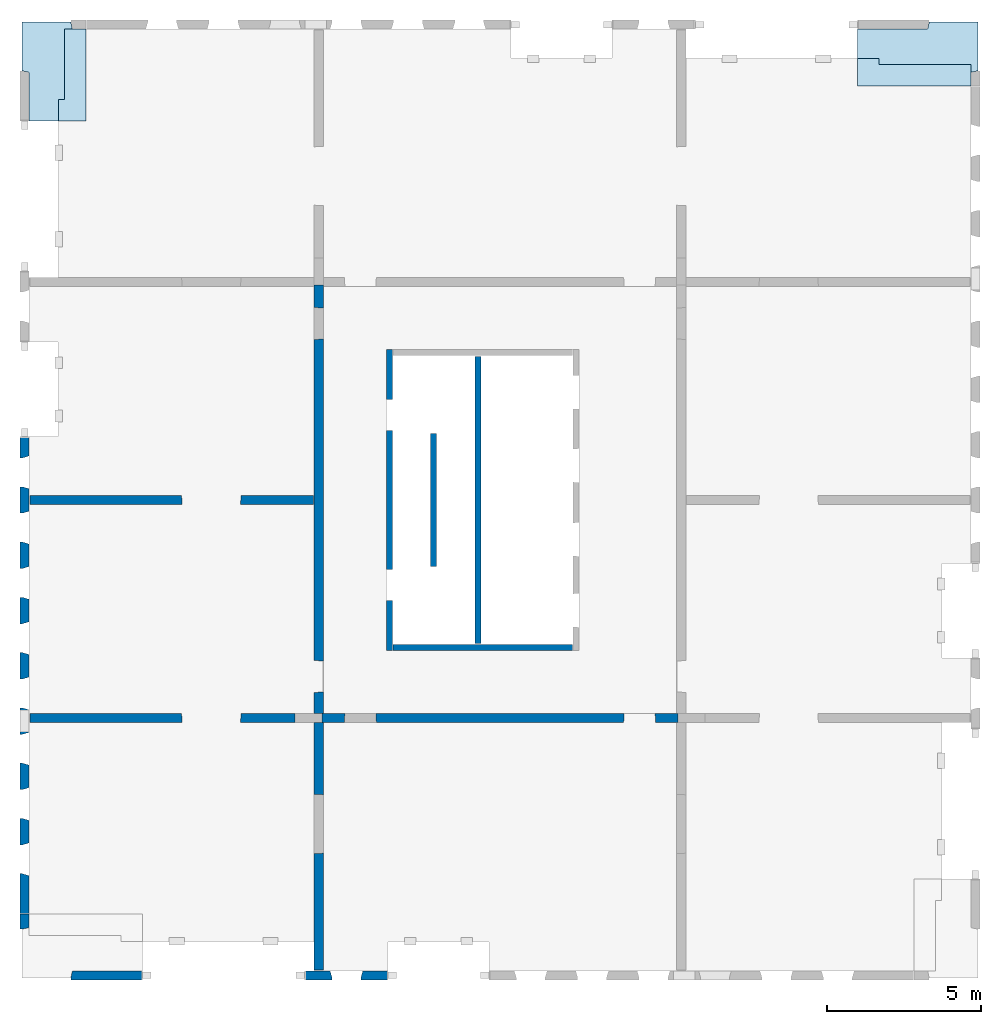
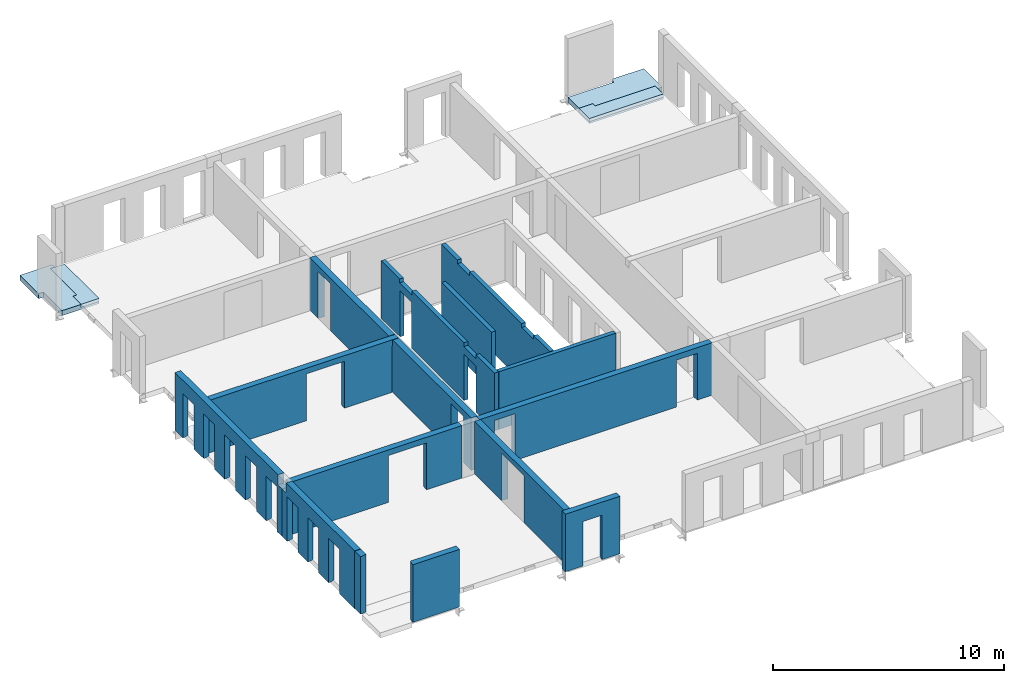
# One storey, part 2 of 4: 14 walls, 4 slabs, 34 openings.
"""IFC2X3 building model written with IfcOpenShell, lengths in millimetres."""

from ifc_helpers import new_model, entity, si_unit, converted_unit, derived_unit, direction, frame, frame_2d, origin, place, context, subcontext, project, spatial, polyline, rectangle, outline, extrude, faceted_brep, material, layer, layer_set, layer_usage, type_object, element, save


model = new_model("IFC2X3")

# Units and contexts
model_context = context("Model", 3, precision=0.01, world=origin(), true_north=direction((6.12303176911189e-17, 1.0)))
body_context = subcontext(model_context, "Body", "Model", "MODEL_VIEW")
ifc_project = project(units=[si_unit("LENGTHUNIT", "METRE", prefix="MILLI"), si_unit("AREAUNIT", "SQUARE_METRE"), si_unit("VOLUMEUNIT", "CUBIC_METRE"), converted_unit("PLANEANGLEUNIT", "DEGREE", entity("IfcRatioMeasure", 0.0174532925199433), si_unit("PLANEANGLEUNIT", "RADIAN"), dimensions=[0, 0, 0, 0, 0, 0, 0]), si_unit("MASSUNIT", "GRAM", prefix="KILO"), derived_unit("MASSDENSITYUNIT", [(si_unit("MASSUNIT", "GRAM", prefix="KILO"), 1), (si_unit("LENGTHUNIT", "METRE"), -3)]), si_unit("TIMEUNIT", "SECOND"), si_unit("FREQUENCYUNIT", "HERTZ"), si_unit("THERMODYNAMICTEMPERATUREUNIT", "DEGREE_CELSIUS"), derived_unit("THERMALTRANSMITTANCEUNIT", [(si_unit("MASSUNIT", "GRAM", prefix="KILO"), 1), (si_unit("THERMODYNAMICTEMPERATUREUNIT", "KELVIN"), -1), (si_unit("TIMEUNIT", "SECOND"), -3)]), derived_unit("VOLUMETRICFLOWRATEUNIT", [(si_unit("LENGTHUNIT", "METRE"), 3), (si_unit("TIMEUNIT", "SECOND"), -1)]), si_unit("ELECTRICCURRENTUNIT", "AMPERE"), si_unit("ELECTRICVOLTAGEUNIT", "VOLT"), si_unit("POWERUNIT", "WATT"), si_unit("FORCEUNIT", "NEWTON", prefix="KILO"), si_unit("ILLUMINANCEUNIT", "LUX"), si_unit("LUMINOUSFLUXUNIT", "LUMEN"), si_unit("LUMINOUSINTENSITYUNIT", "CANDELA"), derived_unit("USERDEFINED", [(si_unit("MASSUNIT", "GRAM", prefix="KILO"), -1), (si_unit("LENGTHUNIT", "METRE"), -2), (si_unit("TIMEUNIT", "SECOND"), 3), (si_unit("LUMINOUSFLUXUNIT", "LUMEN"), 1)]), derived_unit("LINEARVELOCITYUNIT", [(si_unit("LENGTHUNIT", "METRE"), 1), (si_unit("TIMEUNIT", "SECOND"), -1)]), si_unit("PRESSUREUNIT", "PASCAL"), derived_unit("USERDEFINED", [(si_unit("LENGTHUNIT", "METRE"), -2), (si_unit("MASSUNIT", "GRAM", prefix="KILO"), 1), (si_unit("TIMEUNIT", "SECOND"), -2)])], contexts=[model_context])

# Site, building, storey
site_placement = place(None, origin())
site = spatial("IfcSite", under=ifc_project, at=site_placement, Name="Default", CompositionType="ELEMENT")
building_placement = place(site_placement, origin())
building = spatial("IfcBuilding", under=site, at=building_placement, Name="niet gebruiken", CompositionType="ELEMENT")
storey_placement = place(building_placement, frame((0.0, 0.0, 146520.0)))
storey = spatial("IfcBuildingStorey", under=building, at=storey_placement, Name="47 zevenenveertigste verdieping", CompositionType="ELEMENT", Elevation=146520.0)

# Slabs
ifc_material_1 = material(Name="NLRS_f2_beton prefab")
ifc_layer_1 = layer(ifc_material_1, 270.0)
ifc_layer_set_1 = layer_set([ifc_layer_1], Name="Floor:NLRS_23.22_FL_beton prefab d=270 3D element_gen")
ifc_layer_usage_1 = layer_usage(ifc_layer_set_1, "AXIS3", "POSITIVE", 0.0)
slab_1_placement = place(storey_placement, origin())
element("IfcSlab", 1, at=slab_1_placement, inside=storey, material=ifc_layer_usage_1, Name="Floor:NLRS_23.22_FL_beton prefab d=270 3D element_gen", ObjectType="Floor:NLRS_23.22_FL_beton prefab d=270 3D element_gen", PredefinedType="LANDING", context=body_context, shape_type="SweptSolid", body=[
    extrude(outline(polyline([(-322.675940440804, -982.471394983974), (1267.47139498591, -982.471394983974), (1267.47139498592, 607.675940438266), (1034.47139498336, 655.152429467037), (1034.47139498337, 1100.5286050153), (-1955.52860501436, 1100.52860501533), (-1955.52860501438, -749.471394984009), (-370.152429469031, -749.471394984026), (-322.675940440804, -982.471394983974)])), frame((127169.471394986, 31795.5286050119, -90.0), z_axis=(0.0, 0.0, -1.0), x_axis=(0.0, 1.0, 0.0)), (0.0, 0.0, 1.0), 270.000000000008),
])
ifc_material_2 = material(Name="NLRS_f2_beton ihwg")
ifc_layer_2 = layer(ifc_material_2, 170.0)
ifc_layer_set_2 = layer_set([ifc_layer_2], Name="Floor:NLRS_23.21_FL_beton ihwg d=170_gen")
ifc_layer_usage_2 = layer_usage(ifc_layer_set_2, "AXIS3", "POSITIVE", 0.0)
slab_2_placement = place(storey_placement, origin())
element("IfcSlab", 2, at=slab_2_placement, inside=storey, material=ifc_layer_usage_2, Name="Floor:NLRS_23.21_FL_beton ihwg d=170_gen", ObjectType="Floor:NLRS_23.21_FL_beton ihwg d=170_gen", PredefinedType="FLOOR", context=body_context, shape_type="SweptSolid", body=[
    extrude(outline(polyline([(-1230.0, -366.666666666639), (-530.0, -366.666666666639), (-530.0, -166.66666666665), (1760.0, -166.666666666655), (1760.0, 533.333333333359), (-1230.0, 533.333333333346), (-1230.0, -366.666666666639)])), frame((127736.666666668, 31070.0, -90.0), z_axis=(0.0, 0.0, -1.0), x_axis=(0.0, 1.0, 0.0)), (0.0, 0.0, 1.0), 169.999999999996),
])
ifc_layer_usage_3 = layer_usage(ifc_layer_set_1, "AXIS3", "POSITIVE", 0.0)
slab_3_placement = place(storey_placement, origin())
element("IfcSlab", 3, at=slab_3_placement, inside=storey, material=ifc_layer_usage_3, Name="Floor:NLRS_23.22_FL_beton prefab d=270 3D element_gen", ObjectType="Floor:NLRS_23.22_FL_beton prefab d=270 3D element_gen", PredefinedType="LANDING", context=body_context, shape_type="SweptSolid", body=[
    extrude(outline(polyline([(-1100.52860501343, -2480.52860501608), (749.471394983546, -2480.52860501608), (749.471394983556, -195.152429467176), (982.471394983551, -147.675940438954), (982.471394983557, 1442.47139498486), (-607.675940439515, 1442.47139498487), (-655.152429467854, 1209.47139498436), (-1100.52860501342, 1209.47139498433), (-1100.52860501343, -2480.52860501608)])), frame((155870.528605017, 32080.5286050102, -90.0), z_axis=(0.0, 0.0, -1.0), x_axis=(0.0, 1.0, 0.0)), (0.0, 0.0, 1.0), 270.000000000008),
])
ifc_layer_usage_4 = layer_usage(ifc_layer_set_2, "AXIS3", "POSITIVE", 0.0)
slab_4_placement = place(storey_placement, origin())
element("IfcSlab", 4, at=slab_4_placement, inside=storey, material=ifc_layer_usage_4, Name="Floor:NLRS_23.21_FL_beton ihwg d=170_gen", ObjectType="Floor:NLRS_23.21_FL_beton ihwg d=170_gen", PredefinedType="FLOOR", context=body_context, shape_type="SweptSolid", body=[
    extrude(outline(polyline([(-533.333333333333, -1463.33333333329), (366.666666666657, -1463.33333333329), (366.666666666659, -763.333333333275), (166.66666666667, -763.333333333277), (166.666666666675, 2226.66666666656), (-533.333333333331, 2226.66666666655), (-533.333333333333, -1463.33333333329)])), frame((154853.333333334, 31513.3333333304, -90.0), z_axis=(0.0, 0.0, -1.0), x_axis=(0.0, 1.0, 0.0)), (0.0, 0.0, 1.0), 169.999999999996),
])

# Wall, openings
ifc_layer_3 = layer(ifc_material_1, 200.0)
ifc_layer_set_3 = layer_set([ifc_layer_3], Name="Basic Wall:NLRS_22.21_WA_beton prefab d=200_gen")
ifc_layer_usage_5 = layer_usage(ifc_layer_set_3, "AXIS2", "NEGATIVE", 100.0)
wall_type_1 = type_object("IfcWallType", Name="Basic Wall:NLRS_22.21_WA_beton prefab d=200_gen", PredefinedType="STANDARD", material=ifc_layer_set_3)
wall_1_placement = place(storey_placement, frame((138150.0, 22400.0, -50.0), z_axis=(0.0, 0.0, 1.0), x_axis=(0.0, -1.0, 0.0)))
wall_1 = element("IfcWallStandardCase", 5, at=wall_1_placement, inside=storey, type_object=wall_type_1, material=ifc_layer_usage_5, Name="Basic Wall:NLRS_22.21_WA_beton prefab d=200_gen", ObjectType="Basic Wall:NLRS_22.21_WA_beton prefab d=200_gen", context=body_context, shape_type="SweptSolid", body=[
    extrude(rectangle(XDim=9800.0, YDim=199.999999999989, at=frame_2d((4900.0, 3.76587649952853e-13), x_axis=(-1.0, 0.0))), origin(), (0.0, 0.0, 1.0), 3040.0),
])
opening_1_placement = place(wall_1_placement, origin())
element("IfcOpeningElement", 6, at=opening_1_placement, cuts=wall_1, Name="Basic Wall:NLRS_22.21_WA_beton prefab d=200_gen", ObjectType="Opening", context=body_context, shape_type="SweptSolid", body=[
    extrude(rectangle(XDim=200.000000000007, YDim=1044.0, at=frame_2d((-8.66862137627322e-12, 0.0), x_axis=(1.0, 0.0))), frame((7672.0, -100.0, 2940.0), z_axis=(0.0, 1.0, 0.0), x_axis=(0.0, 0.0, -1.0)), (0.0, 0.0, 1.0), 199.999999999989),
])
opening_2_placement = place(wall_1_placement, origin())
element("IfcOpeningElement", 7, at=opening_2_placement, cuts=wall_1, Name="Basic Wall:NLRS_22.21_WA_beton prefab d=200_gen", ObjectType="Opening", context=body_context, shape_type="SweptSolid", body=[
    extrude(rectangle(XDim=200.000000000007, YDim=1044.0, at=frame_2d((-8.66862137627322e-12, 2.1600499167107e-12), x_axis=(1.0, 0.0))), frame((2128.0, -100.0, 2940.0), z_axis=(0.0, 1.0, 0.0), x_axis=(0.0, 0.0, -1.0)), (0.0, 0.0, 1.0), 199.999999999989),
])
opening_3_placement = place(wall_1_placement, origin())
element("IfcOpeningElement", 8, at=opening_3_placement, cuts=wall_1, Name="Basic Wall:NLRS_22.21_WA_beton prefab d=200_gen", ObjectType="Opening", context=body_context, shape_type="SweptSolid", body=[
    extrude(rectangle(XDim=2435.0, YDim=1015.99999999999, at=frame_2d((0.0, 1.10844666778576e-12), x_axis=(1.0, 0.0))), frame((7672.0, -100.0, 1217.50000000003), z_axis=(0.0, 1.0, 0.0), x_axis=(0.0, 0.0, -1.0)), (0.0, 0.0, 1.0), 199.999999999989),
])
opening_4_placement = place(wall_1_placement, origin())
element("IfcOpeningElement", 9, at=opening_4_placement, cuts=wall_1, Name="Basic Wall:NLRS_22.21_WA_beton prefab d=200_gen", ObjectType="Opening", context=body_context, shape_type="SweptSolid", body=[
    extrude(rectangle(XDim=2435.0, YDim=1015.99999999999, at=frame_2d((0.0, -2.18847162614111e-12), x_axis=(1.0, 0.0))), frame((2128.0, -100.0, 1217.50000000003), z_axis=(0.0, 1.0, 0.0), x_axis=(0.0, 0.0, -1.0)), (0.0, 0.0, 1.0), 199.999999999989),
])

ifc_layer_usage_6 = layer_usage(ifc_layer_set_3, "AXIS2", "NEGATIVE", 100.0)
wall_2_placement = place(storey_placement, frame((141030.0, 22180.0, -50.0), z_axis=(0.0, 0.0, 1.0), x_axis=(0.0, -1.0, 0.0)))
wall_2 = element("IfcWallStandardCase", 10, at=wall_2_placement, inside=storey, type_object=wall_type_1, material=ifc_layer_usage_6, Name="Basic Wall:NLRS_22.21_WA_beton prefab d=200_gen", ObjectType="Basic Wall:NLRS_22.21_WA_beton prefab d=200_gen", context=body_context, shape_type="SweptSolid", body=[
    extrude(rectangle(XDim=9360.0, YDim=199.999999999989, at=frame_2d((4680.0, -2.8421709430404e-14), x_axis=(-1.0, 0.0))), origin(), (0.0, 0.0, 1.0), 3040.0),
])
opening_5_placement = place(wall_2_placement, origin())
element("IfcOpeningElement", 11, at=opening_5_placement, cuts=wall_2, Name="Basic Wall:NLRS_22.21_WA_beton prefab d=200_gen", ObjectType="Opening", context=body_context, shape_type="SweptSolid", body=[
    extrude(rectangle(XDim=70.0000000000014, YDim=1044.00000000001, at=frame_2d((-8.66506866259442e-12, 0.0), x_axis=(1.0, 0.0))), frame((7452.0, -100.0, 35.0), z_axis=(0.0, 1.0, 0.0), x_axis=(0.0, 0.0, -1.0)), (0.0, 0.0, 1.0), 199.999999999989),
])
opening_6_placement = place(wall_2_placement, origin())
element("IfcOpeningElement", 12, at=opening_6_placement, cuts=wall_2, Name="Basic Wall:NLRS_22.21_WA_beton prefab d=200_gen", ObjectType="Opening", context=body_context, shape_type="SweptSolid", body=[
    extrude(rectangle(XDim=70.0000000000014, YDim=1044.00000000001, at=frame_2d((-8.66506866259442e-12, 0.0), x_axis=(1.0, 0.0))), frame((1908.0, -100.0, 35.0), z_axis=(0.0, 1.0, 0.0), x_axis=(0.0, 0.0, -1.0)), (0.0, 0.0, 1.0), 199.999999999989),
])
opening_7_placement = place(wall_2_placement, origin())
element("IfcOpeningElement", 13, at=opening_7_placement, cuts=wall_2, Name="Basic Wall:NLRS_22.21_WA_beton prefab d=200_gen", ObjectType="Opening", context=body_context, shape_type="SweptSolid", body=[
    extrude(rectangle(XDim=200.000000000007, YDim=1044.00000000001, at=frame_2d((-8.66862137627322e-12, 0.0), x_axis=(1.0, 0.0))), frame((1908.0, -100.0, 2940.0), z_axis=(0.0, 1.0, 0.0), x_axis=(0.0, 0.0, -1.0)), (0.0, 0.0, 1.0), 199.999999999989),
])
opening_8_placement = place(wall_2_placement, origin())
element("IfcOpeningElement", 14, at=opening_8_placement, cuts=wall_2, Name="Basic Wall:NLRS_22.21_WA_beton prefab d=200_gen", ObjectType="Opening", context=body_context, shape_type="SweptSolid", body=[
    extrude(rectangle(XDim=200.000000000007, YDim=1044.00000000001, at=frame_2d((-8.66862137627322e-12, 0.0), x_axis=(1.0, 0.0))), frame((7452.0, -100.0, 2940.0), z_axis=(0.0, 1.0, 0.0), x_axis=(0.0, 0.0, -1.0)), (0.0, 0.0, 1.0), 199.999999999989),
])
opening_9_placement = place(wall_2_placement, origin())
element("IfcOpeningElement", 15, at=opening_9_placement, cuts=wall_2, Name="Basic Wall:NLRS_22.21_WA_beton prefab d=200_gen", ObjectType="Recess", context=body_context, shape_type="SweptSolid", body=[
    extrude(rectangle(XDim=399.999999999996, YDim=280.000000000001, at=frame_2d((-2.1600499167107e-12, -8.66862137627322e-12), x_axis=(0.0, 1.0))), frame((770.0, -60.0, 438.0), z_axis=(0.0, 1.0, 0.0), x_axis=(1.0, 0.0, 0.0)), (0.0, 0.0, 1.0), 159.999999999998),
])
opening_10_placement = place(wall_2_placement, origin())
element("IfcOpeningElement", 16, at=opening_10_placement, cuts=wall_2, Name="Basic Wall:NLRS_22.21_WA_beton prefab d=200_gen", ObjectType="Recess", context=body_context, shape_type="SweptSolid", body=[
    extrude(rectangle(XDim=399.999999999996, YDim=280.000000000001, at=frame_2d((-2.1600499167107e-12, -8.66862137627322e-12), x_axis=(0.0, 1.0))), frame((1570.0, -60.0, 438.0), z_axis=(0.0, 1.0, 0.0), x_axis=(1.0, 0.0, 0.0)), (0.0, 0.0, 1.0), 159.999999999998),
])
opening_11_placement = place(wall_2_placement, origin())
element("IfcOpeningElement", 17, at=opening_11_placement, cuts=wall_2, Name="Basic Wall:NLRS_22.21_WA_beton prefab d=200_gen", ObjectType="Recess", context=body_context, shape_type="SweptSolid", body=[
    extrude(rectangle(XDim=399.999999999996, YDim=279.999999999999, at=frame_2d((-1.08002495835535e-12, -8.66862137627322e-12), x_axis=(0.0, 1.0))), frame((3160.0, -60.0, 438.0), z_axis=(0.0, 1.0, 0.0), x_axis=(1.0, 0.0, 0.0)), (0.0, 0.0, 1.0), 159.999999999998),
])
opening_12_placement = place(wall_2_placement, origin())
element("IfcOpeningElement", 18, at=opening_12_placement, cuts=wall_2, Name="Basic Wall:NLRS_22.21_WA_beton prefab d=200_gen", ObjectType="Recess", context=body_context, shape_type="SweptSolid", body=[
    extrude(rectangle(XDim=399.999999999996, YDim=279.999999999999, at=frame_2d((1.08002495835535e-12, -8.66862137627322e-12), x_axis=(0.0, 1.0))), frame((3960.0, -60.0, 438.0), z_axis=(0.0, 1.0, 0.0), x_axis=(1.0, 0.0, 0.0)), (0.0, 0.0, 1.0), 159.999999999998),
])

# Walls
ifc_layer_usage_7 = layer_usage(ifc_layer_set_3, "AXIS2", "NEGATIVE", 100.0)
wall_3_placement = place(storey_placement, frame((139590.0, 19660.0, -50.0), z_axis=(0.0, 0.0, 1.0), x_axis=(0.0, -1.0, 0.0)))
element("IfcWallStandardCase", 19, at=wall_3_placement, inside=storey, type_object=wall_type_1, material=ifc_layer_usage_7, Name="Basic Wall:NLRS_22.21_WA_beton prefab d=200_gen", ObjectType="Basic Wall:NLRS_22.21_WA_beton prefab d=200_gen", context=body_context, shape_type="SweptSolid", body=[
    extrude(rectangle(XDim=4320.00000000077, YDim=199.999999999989, at=frame_2d((2160.00000000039, 0.0), x_axis=(-1.0, 0.0))), origin(), (0.0, 0.0, 1.0), 3040.0),
])
ifc_layer_usage_8 = layer_usage(ifc_layer_set_3, "AXIS2", "NEGATIVE", 100.0)
wall_4_placement = place(storey_placement, frame((138270.0, 12700.0, -50.0)))
element("IfcWallStandardCase", 20, at=wall_4_placement, inside=storey, type_object=wall_type_1, material=ifc_layer_usage_8, Name="Basic Wall:NLRS_22.21_WA_beton prefab d=200_gen", ObjectType="Basic Wall:NLRS_22.21_WA_beton prefab d=200_gen", context=body_context, shape_type="SweptSolid", body=[
    extrude(rectangle(XDim=5839.99999999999, YDim=199.999999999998, at=frame_2d((2919.99999999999, -6.82121026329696e-13), x_axis=(-1.0, 0.0))), origin(), (0.0, 0.0, 1.0), 3040.0),
])

# Wall, opening
ifc_layer_4 = layer(ifc_material_1, 300.0)
ifc_layer_set_4 = layer_set([ifc_layer_4], Name="Basic Wall:NLRS_22.21_WA_beton prefab d=300_gen")
ifc_layer_usage_9 = layer_usage(ifc_layer_set_4, "AXIS2", "NEGATIVE", 150.0)
wall_type_2 = type_object("IfcWallType", Name="Basic Wall:NLRS_22.21_WA_beton prefab d=300_gen", PredefinedType="STANDARD", material=ifc_layer_set_4)
wall_5_placement = place(storey_placement, frame((135850.0, 10250.0, -70.0), z_axis=(0.0, 0.0, 1.0), x_axis=(0.0, -1.0, 0.0)))
wall_5 = element("IfcWallStandardCase", 21, at=wall_5_placement, inside=storey, type_object=wall_type_2, material=ifc_layer_usage_9, Name="Basic Wall:NLRS_22.21_WA_beton prefab d=300_gen", ObjectType="Basic Wall:NLRS_22.21_WA_beton prefab d=300_gen", context=body_context, shape_type="SweptSolid", body=[
    extrude(rectangle(XDim=8059.99999999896, YDim=300.000000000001, at=frame_2d((4029.99999999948, 1.22213350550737e-12), x_axis=(-1.0, 0.0))), origin(), (0.0, 0.0, 1.0), 2769.99999999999),
])
opening_13_placement = place(wall_5_placement, frame((4268.0, -150.0, 0.0)))
element("IfcOpeningElement", 22, at=opening_13_placement, cuts=wall_5, Name="Basic Wall:NLRS_22.21_WA_beton prefab d=300_gen", ObjectType="Opening", context=body_context, shape_type="Brep", body=[
    faceted_brep([(-18.0, 300.0, 2470.0), (-18.0, 300.0, 0.0), (-1918.0, 300.0, 0.0), (-1918.0, 300.0, 2470.0), (0.0, 0.0, 2488.0), (-1936.0, 0.0, 2488.0), (-1936.0, 0.0, 0.0), (0.0, 0.0, 0.0)], [[[0, 1, 2, 3]], [[4, 5, 6, 7]], [[4, 0, 3, 5]], [[5, 3, 2, 6]], [[6, 2, 1, 7]], [[7, 1, 0, 4]]]),
])

# Wall, openings
ifc_layer_usage_10 = layer_usage(ifc_layer_set_4, "AXIS2", "NEGATIVE", 150.0)
wall_6_placement = place(storey_placement, frame((135950.003540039, 10400.0, -70.0)))
wall_6 = element("IfcWallStandardCase", 23, at=wall_6_placement, inside=storey, type_object=wall_type_2, material=ifc_layer_usage_10, Name="Basic Wall:NLRS_22.21_WA_beton prefab d=300_gen", ObjectType="Basic Wall:NLRS_22.21_WA_beton prefab d=300_gen", context=body_context, shape_type="SweptSolid", body=[
    extrude(rectangle(XDim=11599.9964599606, YDim=300.000000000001, at=frame_2d((5799.99822998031, 1.70530256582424e-13), x_axis=(-1.0, 0.0))), origin(), (0.0, 0.0, 1.0), 2769.99999999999),
])
opening_14_placement = place(wall_6_placement, frame((731.996459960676, -150.0, 0.0)))
element("IfcOpeningElement", 24, at=opening_14_placement, cuts=wall_6, Name="Basic Wall:NLRS_22.21_WA_beton prefab d=300_gen", ObjectType="Opening", context=body_context, shape_type="Brep", body=[
    faceted_brep([(0.0, 0.0, 2466.0), (18.0, 300.0, 2448.0), (18.0, 300.0, 0.0), (0.0, 0.0, 0.0), (1024.0, 300.0, 0.0), (1042.0, 0.0, 0.0), (1024.0, 300.0, 2448.0), (1042.0, 0.0, 2466.0)], [[[0, 1, 2, 3]], [[3, 2, 4, 5]], [[6, 4, 2, 1]], [[7, 0, 3, 5]], [[7, 6, 1, 0]], [[5, 4, 6, 7]]]),
])
opening_15_placement = place(wall_6_placement, frame((9825.99645996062, -150.0, 0.0)))
element("IfcOpeningElement", 25, at=opening_15_placement, cuts=wall_6, Name="Basic Wall:NLRS_22.21_WA_beton prefab d=300_gen", ObjectType="Opening", context=body_context, shape_type="Brep", body=[
    faceted_brep([(0.0, 0.0, 2466.0), (18.0, 300.0, 2448.0), (18.0, 300.0, 0.0), (0.0, 0.0, 0.0), (1024.0, 300.0, 0.0), (1042.0, 0.0, 0.0), (1024.0, 300.0, 2448.0), (1042.0, 0.0, 2466.0)], [[[0, 1, 2, 3]], [[3, 2, 4, 5]], [[6, 4, 2, 1]], [[7, 0, 3, 5]], [[7, 6, 1, 0]], [[5, 4, 6, 7]]]),
])

ifc_layer_usage_11 = layer_usage(ifc_layer_set_4, "AXIS2", "NEGATIVE", 150.0)
wall_7_placement = place(storey_placement, frame((126440.0, 17500.0, -70.0)))
wall_7 = element("IfcWallStandardCase", 26, at=wall_7_placement, inside=storey, type_object=wall_type_2, material=ifc_layer_usage_11, Name="Basic Wall:NLRS_22.21_WA_beton prefab d=300_gen", ObjectType="Basic Wall:NLRS_22.21_WA_beton prefab d=300_gen", context=body_context, shape_type="SweptSolid", body=[
    extrude(rectangle(XDim=9559.9999999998, YDim=300.000000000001, at=frame_2d((4779.9999999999, -5.54223333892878e-13), x_axis=(-1.0, 0.0))), origin(), (0.0, 0.0, 1.0), 2769.99999999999),
])
opening_16_placement = place(wall_7_placement, frame((4942.0, -150.0, 0.0)))
element("IfcOpeningElement", 27, at=opening_16_placement, cuts=wall_7, Name="Basic Wall:NLRS_22.21_WA_beton prefab d=300_gen", ObjectType="Opening", context=body_context, shape_type="Brep", body=[
    faceted_brep([(1918.0, 0.0, 2470.0), (18.0, 0.0, 2470.0), (18.0, 0.0, 0.0), (1918.0, 0.0, 0.0), (1936.0, 300.0, 2488.0), (1936.0, 300.0, 0.0), (0.0, 300.0, 0.0), (0.0, 300.0, 2488.0)], [[[0, 1, 2, 3]], [[4, 5, 6, 7]], [[4, 7, 1, 0]], [[7, 6, 2, 1]], [[6, 5, 3, 2]], [[5, 4, 0, 3]]]),
])
opening_17_placement = place(wall_7_placement, origin())
element("IfcOpeningElement", 28, at=opening_17_placement, cuts=wall_7, Name="Basic Wall:NLRS_22.21_WA_beton prefab d=300_gen", ObjectType="Opening", context=body_context, shape_type="SweptSolid", body=[
    extrude(rectangle(XDim=2439.99999999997, YDim=319.999999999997, at=frame_2d((0.0, 0.0), x_axis=(0.0, 1.0))), frame((9400.0, 150.0, 1220.0), z_axis=(0.0, -1.0, 0.0), x_axis=(1.0, 0.0, 0.0)), (0.0, 0.0, 1.0), 300.0),
])

# Wall, opening
ifc_layer_usage_12 = layer_usage(ifc_layer_set_4, "AXIS2", "NEGATIVE", 150.0)
wall_8_placement = place(storey_placement, frame((126440.0, 10400.0, -70.0)))
wall_8 = element("IfcWallStandardCase", 29, at=wall_8_placement, inside=storey, type_object=wall_type_2, material=ifc_layer_usage_12, Name="Basic Wall:NLRS_22.21_WA_beton prefab d=300_gen", ObjectType="Basic Wall:NLRS_22.21_WA_beton prefab d=300_gen", context=body_context, shape_type="SweptSolid", body=[
    extrude(rectangle(XDim=8630.00354003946, YDim=300.000000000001, at=frame_2d((4315.00177001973, -2.70006239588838e-13), x_axis=(-1.0, 0.0))), origin(), (0.0, 0.0, 1.0), 2769.99999999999),
])
opening_18_placement = place(wall_8_placement, frame((4942.0, -150.0, 0.0)))
element("IfcOpeningElement", 30, at=opening_18_placement, cuts=wall_8, Name="Basic Wall:NLRS_22.21_WA_beton prefab d=300_gen", ObjectType="Opening", context=body_context, shape_type="Brep", body=[
    faceted_brep([(1918.0, 0.0, 2470.0), (18.0, 0.0, 2470.0), (18.0, 0.0, 0.0), (1918.0, 0.0, 0.0), (1936.0, 300.0, 2488.0), (1936.0, 300.0, 0.0), (0.0, 300.0, 0.0), (0.0, 300.0, 2488.0)], [[[0, 1, 2, 3]], [[4, 5, 6, 7]], [[4, 7, 1, 0]], [[7, 6, 2, 1]], [[6, 5, 3, 2]], [[5, 4, 0, 3]]]),
])

# Wall, openings
ifc_layer_usage_13 = layer_usage(ifc_layer_set_4, "AXIS2", "NEGATIVE", 150.0)
wall_9_placement = place(storey_placement, frame((135850.0, 24500.0, -70.0), z_axis=(0.0, 0.0, 1.0), x_axis=(0.0, -1.0, 0.0)))
wall_9 = element("IfcWallStandardCase", 31, at=wall_9_placement, inside=storey, type_object=wall_type_2, material=ifc_layer_usage_13, Name="Basic Wall:NLRS_22.21_WA_beton prefab d=300_gen", ObjectType="Basic Wall:NLRS_22.21_WA_beton prefab d=300_gen", context=body_context, shape_type="SweptSolid", body=[
    extrude(rectangle(XDim=13949.999999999, YDim=300.000000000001, at=frame_2d((6974.99999999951, 4.2632564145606e-14), x_axis=(-1.0, 0.0))), origin(), (0.0, 0.0, 1.0), 2769.99999999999),
])
opening_19_placement = place(wall_9_placement, frame((13268.0, -150.0, 0.0)))
element("IfcOpeningElement", 32, at=opening_19_placement, cuts=wall_9, Name="Basic Wall:NLRS_22.21_WA_beton prefab d=300_gen", ObjectType="Opening", context=body_context, shape_type="Brep", body=[
    faceted_brep([(-1042.0, 0.0, 2466.0), (-1024.0, 300.0, 2448.0), (-1024.0, 300.0, 0.0), (-1042.0, 0.0, 0.0), (-18.0, 300.0, 0.0), (0.0, 0.0, 0.0), (-18.0, 300.0, 2448.0), (0.0, 0.0, 2466.0)], [[[0, 1, 2, 3]], [[3, 2, 4, 5]], [[6, 4, 2, 1]], [[7, 0, 3, 5]], [[7, 6, 1, 0]], [[5, 4, 6, 7]]]),
])
opening_20_placement = place(wall_9_placement, frame((1774.0, -150.0, 0.0)))
element("IfcOpeningElement", 33, at=opening_20_placement, cuts=wall_9, Name="Basic Wall:NLRS_22.21_WA_beton prefab d=300_gen", ObjectType="Opening", context=body_context, shape_type="Brep", body=[
    faceted_brep([(-1042.0, 0.0, 2466.0), (-1024.0, 300.0, 2448.0), (-1024.0, 300.0, 0.0), (-1042.0, 0.0, 0.0), (-18.0, 300.0, 0.0), (0.0, 0.0, 0.0), (-18.0, 300.0, 2448.0), (0.0, 0.0, 2466.0)], [[[0, 1, 2, 3]], [[3, 2, 4, 5]], [[6, 4, 2, 1]], [[7, 0, 3, 5]], [[7, 6, 1, 0]], [[5, 4, 6, 7]]]),
])
opening_21_placement = place(wall_9_placement, origin())
element("IfcOpeningElement", 34, at=opening_21_placement, cuts=wall_9, Name="Basic Wall:NLRS_22.21_WA_beton prefab d=300_gen", ObjectType="Opening", context=body_context, shape_type="SweptSolid", body=[
    extrude(rectangle(XDim=350.000000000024, YDim=339.999999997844, at=frame_2d((0.0, 0.0), x_axis=(0.0, 1.0))), frame((7000.0, 150.0, 2595.0), z_axis=(0.0, -1.0, 0.0), x_axis=(-1.0, 0.0, 0.0)), (0.0, 0.0, 1.0), 300.0),
])

# Wall, opening
ifc_layer_5 = layer(ifc_material_1, 300.0)
ifc_layer_set_5 = layer_set([ifc_layer_5], Name="Basic Wall:NLRS_21.21_WA_beton prefab d=300/320_gen")
ifc_layer_usage_14 = layer_usage(ifc_layer_set_5, "AXIS2", "NEGATIVE", 150.0)
wall_type_3 = type_object("IfcWallType", Name="Basic Wall:NLRS_21.21_WA_beton prefab d=300/320_gen", PredefinedType="STANDARD", material=ifc_layer_set_5)
wall_10_placement = place(storey_placement, frame((138110.0, 2020.0, -50.0), z_axis=(0.0, 0.0, 1.0), x_axis=(-1.0, 0.0, 0.0)))
wall_10 = element("IfcWallStandardCase", 35, at=wall_10_placement, inside=storey, type_object=wall_type_3, material=ifc_layer_usage_14, Name="Basic Wall:NLRS_21.21_WA_beton prefab d=300/320_gen", ObjectType="Basic Wall:NLRS_21.21_WA_beton prefab d=300/320_gen", context=body_context, shape_type="SweptSolid", body=[
    extrude(rectangle(XDim=2720.00000000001, YDim=300.0, at=frame_2d((1360.0, -8.5265128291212e-14), x_axis=(-1.0, 0.0))), origin(), (0.0, 0.0, 1.0), 3040.0),
])
opening_22_placement = place(wall_10_placement, frame((1895.0, 150.0, -20.0)))
element("IfcOpeningElement", 36, at=opening_22_placement, cuts=wall_10, Name="Basic Wall:NLRS_21.21_WA_beton prefab d=300/320_gen", ObjectType="Opening", context=body_context, shape_type="Brep", body=[
    faceted_brep([(-1070.0, -300.0, 2405.0), (-1070.0, -300.0, 0.0), (0.0, -300.0, 0.0), (0.0, -300.0, 2405.0), (-65.0, -81.0, 2370.0), (-1005.0, -81.0, 2370.0), (-65.0, -81.0, 0.0), (-1005.0, -81.0, 0.0), (-1005.0, 0.0, 0.0), (-65.0, 0.0, 0.0), (-1005.0, 0.0, 2370.0), (-65.0, 0.0, 2370.0)], [[[0, 1, 2, 3]], [[3, 4, 5, 0]], [[2, 6, 4, 3]], [[1, 7, 8, 9, 6, 2]], [[0, 5, 7, 1]], [[10, 11, 9, 8]], [[10, 5, 4, 11]], [[11, 4, 6, 9]], [[8, 7, 5, 10]]]),
])

# Wall, openings
ifc_layer_usage_15 = layer_usage(ifc_layer_set_5, "AXIS2", "NEGATIVE", 150.0)
wall_11_placement = place(storey_placement, frame((126270.0, 4040.0, -50.0), z_axis=(0.0, 0.0, 1.0), x_axis=(0.0, 1.0, 0.0)))
wall_11 = element("IfcWallStandardCase", 37, at=wall_11_placement, inside=storey, type_object=wall_type_3, material=ifc_layer_usage_15, Name="Basic Wall:NLRS_21.21_WA_beton prefab d=300/320_gen", ObjectType="Basic Wall:NLRS_21.21_WA_beton prefab d=300/320_gen", context=body_context, shape_type="SweptSolid", body=[
    extrude(rectangle(XDim=6249.99999999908, YDim=300.000000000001, at=frame_2d((3124.99999999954, 0.0), x_axis=(-1.0, 0.0))), origin(), (0.0, 0.0, 1.0), 3040.0),
])
opening_23_placement = place(wall_11_placement, frame((1225.0, 150.0, -20.0)))
element("IfcOpeningElement", 38, at=opening_23_placement, cuts=wall_11, Name="Basic Wall:NLRS_21.21_WA_beton prefab d=300/320_gen", ObjectType="Opening", context=body_context, shape_type="Brep", body=[
    faceted_brep([(0.0, -300.0, 2405.0), (0.0, -300.0, 0.0), (1070.0, -300.0, 0.0), (1070.0, -300.0, 2405.0), (1005.0, -81.0, 2370.0), (65.0, -81.0, 2370.0), (1005.0, -81.0, 0.0), (65.0, -81.0, 0.0), (65.0, 0.0, 0.0), (1005.0, 0.0, 0.0), (65.0, 0.0, 2370.0), (1005.0, 0.0, 2370.0)], [[[0, 1, 2, 3]], [[3, 4, 5, 0]], [[2, 6, 4, 3]], [[1, 7, 8, 9, 6, 2]], [[0, 5, 7, 1]], [[10, 11, 9, 8]], [[10, 5, 4, 11]], [[11, 4, 6, 9]], [[8, 7, 5, 10]]]),
])
opening_24_placement = place(wall_11_placement, frame((3025.0, 150.0, -20.0)))
element("IfcOpeningElement", 39, at=opening_24_placement, cuts=wall_11, Name="Basic Wall:NLRS_21.21_WA_beton prefab d=300/320_gen", ObjectType="Opening", context=body_context, shape_type="Brep", body=[
    faceted_brep([(0.0, -300.0, 2405.0), (0.0, -300.0, 0.0), (1070.0, -300.0, 0.0), (1070.0, -300.0, 2405.0), (1005.0, -81.0, 2370.0), (65.0, -81.0, 2370.0), (1005.0, -81.0, 0.0), (65.0, -81.0, 0.0), (65.0, 0.0, 0.0), (1005.0, 0.0, 0.0), (65.0, 0.0, 2370.0), (1005.0, 0.0, 2370.0)], [[[0, 1, 2, 3]], [[3, 4, 5, 0]], [[2, 6, 4, 3]], [[1, 7, 8, 9, 6, 2]], [[0, 5, 7, 1]], [[10, 11, 9, 8]], [[10, 5, 4, 11]], [[11, 4, 6, 9]], [[8, 7, 5, 10]]]),
])
opening_25_placement = place(wall_11_placement, frame((4825.0, 150.0, -20.0)))
element("IfcOpeningElement", 40, at=opening_25_placement, cuts=wall_11, Name="Basic Wall:NLRS_21.21_WA_beton prefab d=300/320_gen", ObjectType="Opening", context=body_context, shape_type="Brep", body=[
    faceted_brep([(0.0, -300.0, 2405.0), (0.0, -300.0, 0.0), (1070.0, -300.0, 0.0), (1070.0, -300.0, 2405.0), (1005.0, -81.0, 2370.0), (65.0, -81.0, 2370.0), (1005.0, -81.0, 0.0), (65.0, -81.0, 0.0), (65.0, 0.0, 0.0), (1005.0, 0.0, 0.0), (65.0, 0.0, 2370.0), (1005.0, 0.0, 2370.0)], [[[0, 1, 2, 3]], [[3, 4, 5, 0]], [[2, 6, 4, 3]], [[1, 7, 8, 9, 6, 2]], [[0, 5, 7, 1]], [[10, 11, 9, 8]], [[10, 5, 4, 11]], [[11, 4, 6, 9]], [[8, 7, 5, 10]]]),
])
opening_26_placement = place(wall_11_placement, origin())
element("IfcOpeningElement", 41, at=opening_26_placement, cuts=wall_11, Name="Basic Wall:NLRS_21.21_WA_beton prefab d=300/320_gen", ObjectType="Opening", context=body_context, shape_type="SweptSolid", body=[
    extrude(rectangle(XDim=534.99999999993, YDim=344.999999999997, at=frame_2d((0.0, 1.08002495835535e-12), x_axis=(1.0, 0.0))), frame((6077.49999999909, 150.0, 2772.50000000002), z_axis=(0.0, -1.0, 0.0), x_axis=(0.0, 0.0, 1.0)), (0.0, 0.0, 1.0), 300.0),
])

# Wall, opening
ifc_layer_usage_16 = layer_usage(ifc_layer_set_5, "AXIS2", "NEGATIVE", 150.0)
wall_12_placement = place(storey_placement, frame((130110.0, 2020.0, -50.0), z_axis=(0.0, 0.0, 1.0), x_axis=(-1.0, 0.0, 0.0)))
wall_12 = element("IfcWallStandardCase", 42, at=wall_12_placement, inside=storey, type_object=wall_type_3, material=ifc_layer_usage_16, Name="Basic Wall:NLRS_21.21_WA_beton prefab d=300/320_gen", ObjectType="Basic Wall:NLRS_21.21_WA_beton prefab d=300/320_gen", context=body_context, shape_type="SweptSolid", body=[
    extrude(rectangle(XDim=2330.00000000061, YDim=300.0, at=frame_2d((1165.00000000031, -5.6843418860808e-14), x_axis=(-1.0, 0.0))), origin(), (0.0, 0.0, 1.0), 3040.0),
])
opening_27_placement = place(wall_12_placement, frame((2330.0, 69.0, 0.0)))
element("IfcOpeningElement", 43, at=opening_27_placement, cuts=wall_12, Name="Basic Wall:NLRS_21.21_WA_beton prefab d=300/320_gen", ObjectType="Opening", context=body_context, shape_type="Brep", body=[
    faceted_brep([(0.0, -319.0, 3040.0), (0.0, 0.0, 3040.0), (-65.0, -319.0, 3040.0), (0.0, -319.0, 0.0), (-65.0, -319.0, 0.0), (0.0, 0.0, 0.0)], [[[0, 1, 2]], [[3, 4, 5]], [[2, 4, 3, 0]], [[0, 3, 5, 1]], [[1, 5, 4, 2]]]),
])

ifc_layer_usage_17 = layer_usage(ifc_layer_set_5, "AXIS2", "NEGATIVE", 150.0)
wall_13_placement = place(storey_placement, frame((126270.0, 3530.0, -50.0), z_axis=(0.0, 0.0, 1.0), x_axis=(0.0, 1.0, 0.0)))
wall_13 = element("IfcWallStandardCase", 44, at=wall_13_placement, inside=storey, type_object=wall_type_3, material=ifc_layer_usage_17, Name="Basic Wall:NLRS_21.21_WA_beton prefab d=300/320_gen", ObjectType="Basic Wall:NLRS_21.21_WA_beton prefab d=300/320_gen", context=body_context, shape_type="SweptSolid", body=[
    extrude(rectangle(XDim=489.999999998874, YDim=300.000000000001, at=frame_2d((244.999999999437, -3.25428572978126e-12), x_axis=(-1.0, 0.0))), origin(), (0.0, 0.0, 1.0), 3040.0),
])
opening_28_placement = place(wall_13_placement, frame((-1.97405825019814e-09, 69.0, 0.0)))
element("IfcOpeningElement", 45, at=opening_28_placement, cuts=wall_13, Name="Basic Wall:NLRS_21.21_WA_beton prefab d=300/320_gen", ObjectType="Opening", context=body_context, shape_type="Brep", body=[
    faceted_brep([(0.0, -319.0, 3040.0), (65.0, -319.0, 3040.0), (0.0, 0.0, 3040.0), (0.0, -319.0, 0.0), (0.0, 0.0, 0.0), (65.0, -319.0, 0.0)], [[[0, 1, 2]], [[3, 4, 5]], [[1, 0, 3, 5]], [[0, 2, 4, 3]], [[2, 1, 5, 4]]]),
])

# Wall, openings
ifc_layer_usage_18 = layer_usage(ifc_layer_set_5, "AXIS2", "NEGATIVE", 150.0)
wall_14_placement = place(storey_placement, frame((126270.0, 10310.0, -50.0), z_axis=(0.0, 0.0, 1.0), x_axis=(0.0, 1.0, 0.0)))
wall_14 = element("IfcWallStandardCase", 46, at=wall_14_placement, inside=storey, type_object=wall_type_3, material=ifc_layer_usage_18, Name="Basic Wall:NLRS_21.21_WA_beton prefab d=300/320_gen", ObjectType="Basic Wall:NLRS_21.21_WA_beton prefab d=300/320_gen", context=body_context, shape_type="SweptSolid", body=[
    extrude(rectangle(XDim=9250.00000000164, YDim=300.000000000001, at=frame_2d((4625.00000000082, 0.0), x_axis=(-1.0, 0.0))), origin(), (0.0, 0.0, 1.0), 3040.0),
])
opening_29_placement = place(wall_14_placement, frame((7555.0, 150.0, -20.0)))
element("IfcOpeningElement", 47, at=opening_29_placement, cuts=wall_14, Name="Basic Wall:NLRS_21.21_WA_beton prefab d=300/320_gen", ObjectType="Opening", context=body_context, shape_type="Brep", body=[
    faceted_brep([(0.0, -300.0, 2405.0), (0.0, -300.0, 0.0), (1070.0, -300.0, 0.0), (1070.0, -300.0, 2405.0), (1005.0, -81.0, 2370.0), (65.0, -81.0, 2370.0), (1005.0, -81.0, 0.0), (65.0, -81.0, 0.0), (65.0, 0.0, 0.0), (1005.0, 0.0, 0.0), (65.0, 0.0, 2370.0), (1005.0, 0.0, 2370.0)], [[[0, 1, 2, 3]], [[3, 4, 5, 0]], [[2, 6, 4, 3]], [[1, 7, 8, 9, 6, 2]], [[0, 5, 7, 1]], [[10, 11, 9, 8]], [[10, 5, 4, 11]], [[11, 4, 6, 9]], [[8, 7, 5, 10]]]),
])
opening_30_placement = place(wall_14_placement, frame((3955.0, 150.0, -20.0)))
element("IfcOpeningElement", 48, at=opening_30_placement, cuts=wall_14, Name="Basic Wall:NLRS_21.21_WA_beton prefab d=300/320_gen", ObjectType="Opening", context=body_context, shape_type="Brep", body=[
    faceted_brep([(0.0, -300.0, 2405.0), (0.0, -300.0, 0.0), (1070.0, -300.0, 0.0), (1070.0, -300.0, 2405.0), (1005.0, -81.0, 2370.0), (65.0, -81.0, 2370.0), (1005.0, -81.0, 0.0), (65.0, -81.0, 0.0), (65.0, 0.0, 0.0), (1005.0, 0.0, 0.0), (65.0, 0.0, 2370.0), (1005.0, 0.0, 2370.0)], [[[0, 1, 2, 3]], [[3, 4, 5, 0]], [[2, 6, 4, 3]], [[1, 7, 8, 9, 6, 2]], [[0, 5, 7, 1]], [[10, 11, 9, 8]], [[10, 5, 4, 11]], [[11, 4, 6, 9]], [[8, 7, 5, 10]]]),
])
opening_31_placement = place(wall_14_placement, frame((2155.0, 150.0, -20.0)))
element("IfcOpeningElement", 49, at=opening_31_placement, cuts=wall_14, Name="Basic Wall:NLRS_21.21_WA_beton prefab d=300/320_gen", ObjectType="Opening", context=body_context, shape_type="Brep", body=[
    faceted_brep([(0.0, -300.0, 2405.0), (0.0, -300.0, 0.0), (1070.0, -300.0, 0.0), (1070.0, -300.0, 2405.0), (1005.0, -81.0, 2370.0), (65.0, -81.0, 2370.0), (1005.0, -81.0, 0.0), (65.0, -81.0, 0.0), (65.0, 0.0, 0.0), (1005.0, 0.0, 0.0), (65.0, 0.0, 2370.0), (1005.0, 0.0, 2370.0)], [[[0, 1, 2, 3]], [[3, 4, 5, 0]], [[2, 6, 4, 3]], [[1, 7, 8, 9, 6, 2]], [[0, 5, 7, 1]], [[10, 11, 9, 8]], [[10, 5, 4, 11]], [[11, 4, 6, 9]], [[8, 7, 5, 10]]]),
])
opening_32_placement = place(wall_14_placement, frame((5755.0, 150.0, -20.0)))
element("IfcOpeningElement", 50, at=opening_32_placement, cuts=wall_14, Name="Basic Wall:NLRS_21.21_WA_beton prefab d=300/320_gen", ObjectType="Opening", context=body_context, shape_type="Brep", body=[
    faceted_brep([(0.0, -300.0, 2405.0), (0.0, -300.0, 0.0), (1070.0, -300.0, 0.0), (1070.0, -300.0, 2405.0), (1005.0, -81.0, 2370.0), (65.0, -81.0, 2370.0), (1005.0, -81.0, 0.0), (65.0, -81.0, 0.0), (65.0, 0.0, 0.0), (1005.0, 0.0, 0.0), (65.0, 0.0, 2370.0), (1005.0, 0.0, 2370.0)], [[[0, 1, 2, 3]], [[3, 4, 5, 0]], [[2, 6, 4, 3]], [[1, 7, 8, 9, 6, 2]], [[0, 5, 7, 1]], [[10, 11, 9, 8]], [[10, 5, 4, 11]], [[11, 4, 6, 9]], [[8, 7, 5, 10]]]),
])
opening_33_placement = place(wall_14_placement, frame((355.0, 150.0, -20.0)))
element("IfcOpeningElement", 51, at=opening_33_placement, cuts=wall_14, Name="Basic Wall:NLRS_21.21_WA_beton prefab d=300/320_gen", ObjectType="Opening", context=body_context, shape_type="Brep", body=[
    faceted_brep([(1070.0, -300.0, 2405.0), (0.0, -300.0, 2405.0), (0.0, -300.0, 0.0), (1070.0, -300.0, 0.0), (1005.0, -81.0, 2370.0), (65.0, -81.0, 2370.0), (65.0, -81.0, 0.0), (65.0, 0.0, 0.0), (1005.0, 0.0, 0.0), (1005.0, -81.0, 0.0), (1005.0, 0.0, 2370.0), (65.0, 0.0, 2370.0)], [[[0, 1, 2, 3]], [[1, 0, 4, 5]], [[2, 1, 5, 6]], [[3, 2, 6, 7, 8, 9]], [[0, 3, 9, 4]], [[10, 8, 7, 11]], [[10, 11, 5, 4]], [[11, 7, 6, 5]], [[8, 10, 4, 9]]]),
])
opening_34_placement = place(wall_14_placement, origin())
element("IfcOpeningElement", 52, at=opening_34_placement, cuts=wall_14, Name="Basic Wall:NLRS_21.21_WA_beton prefab d=300/320_gen", ObjectType="Opening", context=body_context, shape_type="SweptSolid", body=[
    extrude(rectangle(XDim=534.999999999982, YDim=345.000000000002, at=frame_2d((1.08002495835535e-12, -8.66862137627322e-12), x_axis=(0.0, 1.0))), frame((172.500000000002, 150.0, 2772.5), z_axis=(0.0, -1.0, 0.0), x_axis=(-1.0, 0.0, 0.0)), (0.0, 0.0, 1.0), 300.0),
])

save(model, "model.ifc")
